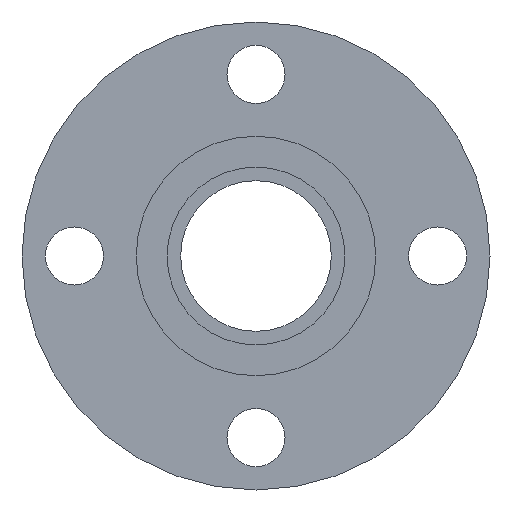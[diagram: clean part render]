
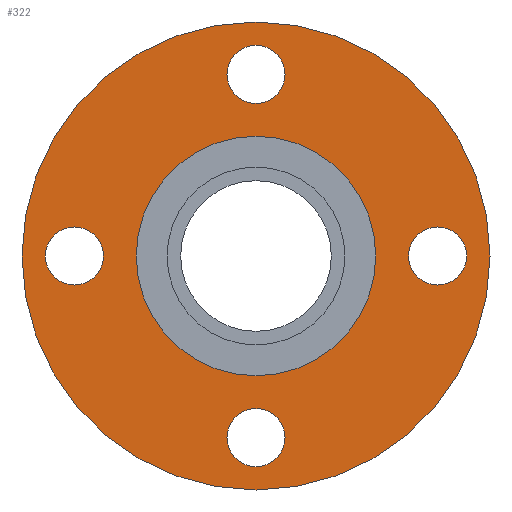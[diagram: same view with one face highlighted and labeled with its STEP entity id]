
A CAD part, left-side view. The second image highlights one B-rep face of the part: STEP entity #322.
In plain terms, the highlighted planar face has unit normal (-1, 0, 0).
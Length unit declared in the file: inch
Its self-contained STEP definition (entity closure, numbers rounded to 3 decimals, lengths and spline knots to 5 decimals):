
#14=FACE_BOUND('',#56,.T.);
#15=FACE_BOUND('',#57,.T.);
#16=FACE_BOUND('',#58,.T.);
#17=FACE_BOUND('',#59,.T.);
#18=FACE_BOUND('',#60,.T.);
#28=PLANE('',#370);
#39=FACE_OUTER_BOUND('',#55,.T.);
#55=EDGE_LOOP('',(#228,#229));
#56=EDGE_LOOP('',(#230));
#57=EDGE_LOOP('',(#231));
#58=EDGE_LOOP('',(#232));
#59=EDGE_LOOP('',(#233));
#60=EDGE_LOOP('',(#234,#235));
#101=CIRCLE('',#355,0.31);
#103=CIRCLE('',#358,0.31);
#105=CIRCLE('',#361,0.31);
#107=CIRCLE('',#364,0.31);
#108=CIRCLE('',#366,2.5);
#109=CIRCLE('',#367,2.5);
#112=CIRCLE('',#371,1.28);
#113=CIRCLE('',#372,1.28);
#133=VERTEX_POINT('',#513);
#135=VERTEX_POINT('',#519);
#137=VERTEX_POINT('',#525);
#139=VERTEX_POINT('',#531);
#140=VERTEX_POINT('',#535);
#141=VERTEX_POINT('',#536);
#144=VERTEX_POINT('',#545);
#145=VERTEX_POINT('',#546);
#166=EDGE_CURVE('',#133,#133,#101,.T.);
#169=EDGE_CURVE('',#135,#135,#103,.T.);
#172=EDGE_CURVE('',#137,#137,#105,.T.);
#175=EDGE_CURVE('',#139,#139,#107,.T.);
#176=EDGE_CURVE('',#140,#141,#108,.T.);
#177=EDGE_CURVE('',#141,#140,#109,.T.);
#181=EDGE_CURVE('',#144,#145,#112,.T.);
#182=EDGE_CURVE('',#145,#144,#113,.T.);
#228=ORIENTED_EDGE('',*,*,#176,.T.);
#229=ORIENTED_EDGE('',*,*,#177,.T.);
#230=ORIENTED_EDGE('',*,*,#166,.T.);
#231=ORIENTED_EDGE('',*,*,#169,.T.);
#232=ORIENTED_EDGE('',*,*,#172,.T.);
#233=ORIENTED_EDGE('',*,*,#175,.T.);
#234=ORIENTED_EDGE('',*,*,#181,.F.);
#235=ORIENTED_EDGE('',*,*,#182,.F.);
#322=ADVANCED_FACE('',(#39,#14,#15,#16,#17,#18),#28,.T.);
#355=AXIS2_PLACEMENT_3D('',#515,#408,#409);
#358=AXIS2_PLACEMENT_3D('',#521,#415,#416);
#361=AXIS2_PLACEMENT_3D('',#527,#422,#423);
#364=AXIS2_PLACEMENT_3D('',#533,#429,#430);
#366=AXIS2_PLACEMENT_3D('',#537,#433,#434);
#367=AXIS2_PLACEMENT_3D('',#538,#435,#436);
#370=AXIS2_PLACEMENT_3D('',#544,#442,#443);
#371=AXIS2_PLACEMENT_3D('',#547,#444,#445);
#372=AXIS2_PLACEMENT_3D('',#548,#446,#447);
#408=DIRECTION('center_axis',(1.,0.,0.));
#409=DIRECTION('ref_axis',(0.,-1.,0.));
#415=DIRECTION('center_axis',(1.,0.,0.));
#416=DIRECTION('ref_axis',(0.,0.,-1.));
#422=DIRECTION('center_axis',(1.,0.,0.));
#423=DIRECTION('ref_axis',(0.,1.,0.));
#429=DIRECTION('center_axis',(1.,0.,0.));
#430=DIRECTION('ref_axis',(0.,0.,1.));
#433=DIRECTION('center_axis',(-1.,0.,0.));
#434=DIRECTION('ref_axis',(0.,0.,1.));
#435=DIRECTION('center_axis',(-1.,0.,0.));
#436=DIRECTION('ref_axis',(0.,0.,1.));
#442=DIRECTION('center_axis',(-1.,0.,0.));
#443=DIRECTION('ref_axis',(0.,0.,1.));
#444=DIRECTION('center_axis',(-1.,0.,0.));
#445=DIRECTION('ref_axis',(0.,0.,1.));
#446=DIRECTION('center_axis',(-1.,0.,0.));
#447=DIRECTION('ref_axis',(0.,0.,1.));
#513=CARTESIAN_POINT('',(-0.69,2.25,0.));
#515=CARTESIAN_POINT('Origin',(-0.69,1.94,0.));
#519=CARTESIAN_POINT('',(-0.69,0.,2.25));
#521=CARTESIAN_POINT('Origin',(-0.69,0.,1.94));
#525=CARTESIAN_POINT('',(-0.69,-2.25,0.));
#527=CARTESIAN_POINT('Origin',(-0.69,-1.94,0.));
#531=CARTESIAN_POINT('',(-0.69,0.,-2.25));
#533=CARTESIAN_POINT('Origin',(-0.69,0.,-1.94));
#535=CARTESIAN_POINT('',(-0.69,0.,2.5));
#536=CARTESIAN_POINT('',(-0.69,0.,-2.5));
#537=CARTESIAN_POINT('Origin',(-0.69,0.,0.));
#538=CARTESIAN_POINT('Origin',(-0.69,0.,0.));
#544=CARTESIAN_POINT('Origin',(-0.69,0.,1.89));
#545=CARTESIAN_POINT('',(-0.69,0.,1.28));
#546=CARTESIAN_POINT('',(-0.69,0.,-1.28));
#547=CARTESIAN_POINT('Origin',(-0.69,0.,0.));
#548=CARTESIAN_POINT('Origin',(-0.69,0.,0.));
